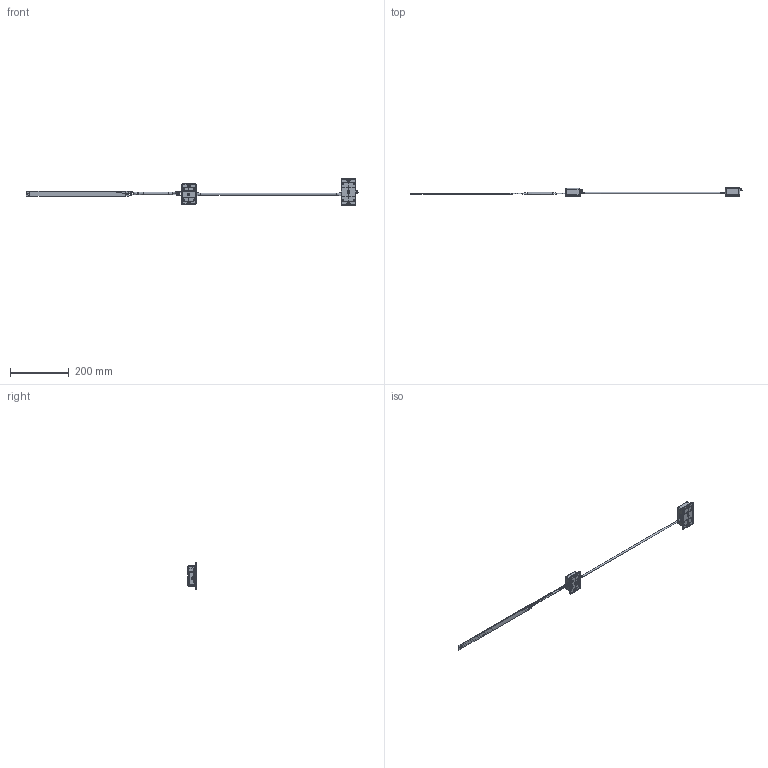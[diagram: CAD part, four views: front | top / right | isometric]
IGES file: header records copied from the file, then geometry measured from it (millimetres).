
Global section: file name: 70分離; native system: unknown; preprocessor: unknown; author: unknown; organization: unknown; date: 20210301.143405; units: millimetre
Bounding box: 1133.03 x 29.9 x 90.4 mm (x, y, z)
Volume: 93666.3 mm3; surface area: 110725.1 mm2
Topology: 109 solids, 109 shells, 3047 faces, 7832 edges, 5125 vertices
Faces by surface type: bspline 3047
